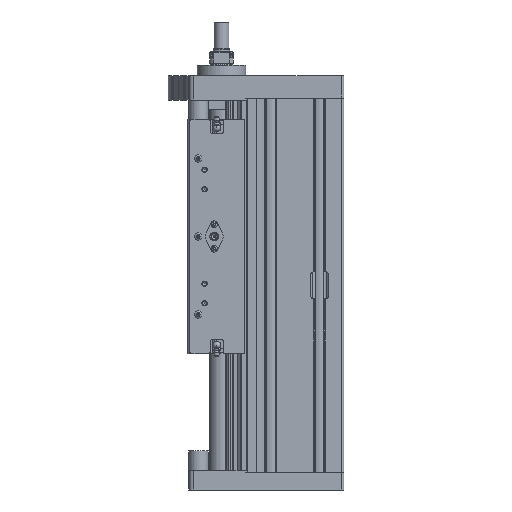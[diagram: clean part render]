
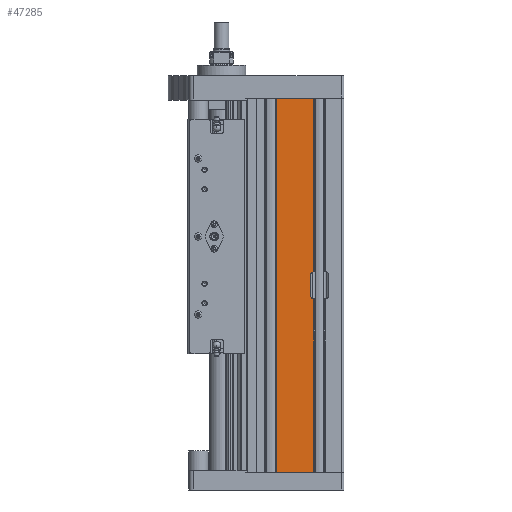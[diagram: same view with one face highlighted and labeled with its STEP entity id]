
A CAD part, left-side view. The second image highlights one B-rep face of the part: STEP entity #47285.
In plain terms, the highlighted planar face has unit normal (-1, 0, 0).
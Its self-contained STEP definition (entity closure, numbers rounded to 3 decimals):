
#1692=PLANE('',#50378);
#3291=FACE_OUTER_BOUND('',#5999,.T.);
#5999=EDGE_LOOP('',(#31266,#31267,#31268,#31269,#31270,#31271,#31272,#31273));
#9117=LINE('',#68527,#13383);
#9160=LINE('',#68651,#13426);
#9161=LINE('',#68653,#13427);
#9162=LINE('',#68655,#13428);
#9163=LINE('',#68657,#13429);
#9164=LINE('',#68658,#13430);
#13383=VECTOR('',#55014,10.);
#13426=VECTOR('',#55127,10.);
#13427=VECTOR('',#55128,10.);
#13428=VECTOR('',#55129,10.);
#13429=VECTOR('',#55130,10.);
#13430=VECTOR('',#55131,10.);
#17634=CIRCLE('',#50341,4.);
#17638=CIRCLE('',#50347,4.);
#19648=VERTEX_POINT('',#68515);
#19649=VERTEX_POINT('',#68517);
#19652=VERTEX_POINT('',#68525);
#19656=VERTEX_POINT('',#68535);
#19698=VERTEX_POINT('',#68650);
#19699=VERTEX_POINT('',#68652);
#19700=VERTEX_POINT('',#68654);
#19701=VERTEX_POINT('',#68656);
#24250=EDGE_CURVE('',#19649,#19648,#17634,.T.);
#24255=EDGE_CURVE('',#19648,#19652,#9117,.T.);
#24260=EDGE_CURVE('',#19652,#19656,#17638,.T.);
#24316=EDGE_CURVE('',#19656,#19698,#9160,.T.);
#24317=EDGE_CURVE('',#19699,#19698,#9161,.T.);
#24318=EDGE_CURVE('',#19700,#19699,#9162,.T.);
#24319=EDGE_CURVE('',#19701,#19700,#9163,.T.);
#24320=EDGE_CURVE('',#19701,#19649,#9164,.T.);
#31266=ORIENTED_EDGE('',*,*,#24250,.T.);
#31267=ORIENTED_EDGE('',*,*,#24255,.T.);
#31268=ORIENTED_EDGE('',*,*,#24260,.T.);
#31269=ORIENTED_EDGE('',*,*,#24316,.T.);
#31270=ORIENTED_EDGE('',*,*,#24317,.F.);
#31271=ORIENTED_EDGE('',*,*,#24318,.F.);
#31272=ORIENTED_EDGE('',*,*,#24319,.F.);
#31273=ORIENTED_EDGE('',*,*,#24320,.T.);
#47285=ADVANCED_FACE('',(#3291),#1692,.T.);
#50341=AXIS2_PLACEMENT_3D('',#68518,#55005,#55006);
#50347=AXIS2_PLACEMENT_3D('',#68537,#55023,#55024);
#50378=AXIS2_PLACEMENT_3D('',#68649,#55125,#55126);
#55005=DIRECTION('center_axis',(1.,0.,0.));
#55006=DIRECTION('ref_axis',(0.,0.,-1.));
#55014=DIRECTION('',(0.,0.,1.));
#55023=DIRECTION('center_axis',(1.,0.,0.));
#55024=DIRECTION('ref_axis',(0.,1.,0.));
#55125=DIRECTION('center_axis',(-1.,0.,0.));
#55126=DIRECTION('ref_axis',(0.,-1.,0.));
#55127=DIRECTION('',(0.,0.,1.));
#55128=DIRECTION('',(0.,-1.,0.));
#55129=DIRECTION('',(0.,0.,1.));
#55130=DIRECTION('',(0.,1.,0.));
#55131=DIRECTION('',(0.,0.,1.));
#68515=CARTESIAN_POINT('',(-100.,-15.5,-60.));
#68517=CARTESIAN_POINT('',(-100.,-18.9,-63.955));
#68518=CARTESIAN_POINT('Origin',(-100.,-19.5,-60.));
#68525=CARTESIAN_POINT('',(-100.,-15.5,-40.));
#68527=CARTESIAN_POINT('',(-100.,-15.5,-20.));
#68535=CARTESIAN_POINT('',(-100.,-18.9,-36.045));
#68537=CARTESIAN_POINT('Origin',(-100.,-19.5,-40.));
#68649=CARTESIAN_POINT('Origin',(-100.,18.9,0.));
#68650=CARTESIAN_POINT('',(-100.,-18.9,142.));
#68651=CARTESIAN_POINT('',(-100.,-18.9,0.));
#68652=CARTESIAN_POINT('',(-100.,18.9,142.));
#68653=CARTESIAN_POINT('',(-100.,18.9,142.));
#68654=CARTESIAN_POINT('',(-100.,18.9,-242.));
#68655=CARTESIAN_POINT('',(-100.,18.9,0.));
#68656=CARTESIAN_POINT('',(-100.,-18.9,-242.));
#68657=CARTESIAN_POINT('',(-100.,-18.9,-242.));
#68658=CARTESIAN_POINT('',(-100.,-18.9,0.));
